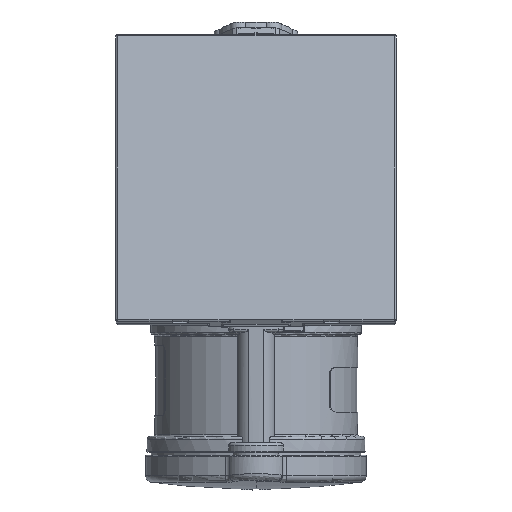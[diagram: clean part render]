
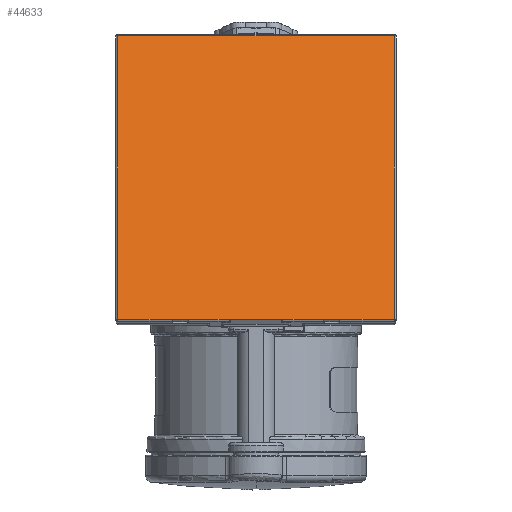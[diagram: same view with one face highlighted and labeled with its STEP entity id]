
A CAD part, front view. The second image highlights one B-rep face of the part: STEP entity #44633.
In plain terms, the highlighted planar face has unit normal (0, -0.966, 0.259).
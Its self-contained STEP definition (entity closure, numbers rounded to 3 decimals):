
#577=DIRECTION('',(1.,0.,0.));
#578=VECTOR('',#577,16.991);
#579=CARTESIAN_POINT('',(-42.991,-47.803,
-47.041));
#580=LINE('1915',#579,#578);
#1696=DIRECTION('',(1.,0.,0.));
#1697=VECTOR('',#1696,12.679);
#1698=CARTESIAN_POINT('',(8.321,-47.803,
-47.041));
#1699=LINE('1913',#1698,#1697);
#2103=DIRECTION('',(1.,0.,0.));
#2104=VECTOR('',#2103,12.679);
#2105=CARTESIAN_POINT('',(-21.,-47.803,-47.041));
#2106=LINE('1916',#2105,#2104);
#2165=DIRECTION('',(1.,0.,0.));
#2166=VECTOR('',#2165,5.);
#2167=CARTESIAN_POINT('',(-26.,-47.803,-47.041));
#2168=LINE('1925',#2167,#2166);
#2172=DIRECTION('',(1.,0.,0.));
#2173=VECTOR('',#2172,5.);
#2174=CARTESIAN_POINT('',(21.,-47.803,-47.041));
#2175=LINE('1927',#2174,#2173);
#2179=DIRECTION('',(1.,0.,0.));
#2180=VECTOR('',#2179,16.641);
#2181=CARTESIAN_POINT('',(-8.321,-47.803,
-47.041));
#2182=LINE('1926',#2181,#2180);
#2186=DIRECTION('',(0.,-0.259,-0.966));
#2187=VECTOR('',#2186,91.296);
#2188=CARTESIAN_POINT('',(-42.991,-24.174,
41.145));
#2189=LINE('1645',#2188,#2187);
#3896=DIRECTION('',(0.,0.259,0.966));
#3897=VECTOR('',#3896,91.296);
#3898=CARTESIAN_POINT('',(42.991,-47.803,
-47.041));
#3899=LINE('1639',#3898,#3897);
#3994=DIRECTION('',(1.,0.,0.));
#3995=VECTOR('',#3994,16.991);
#3996=CARTESIAN_POINT('',(26.,-47.803,-47.041));
#3997=LINE('1914',#3996,#3995);
#4119=DIRECTION('',(-1.,0.,0.));
#4120=VECTOR('',#4119,85.982);
#4121=CARTESIAN_POINT('',(42.991,-24.174,41.145));
#4122=LINE('1642',#4121,#4120);
#38569=CARTESIAN_POINT('',(42.991,-47.803,
-47.041));
#38570=CARTESIAN_POINT('',(42.991,-24.174,
41.145));
#38571=VERTEX_POINT('',#38569);
#38572=VERTEX_POINT('',#38570);
#38577=CARTESIAN_POINT('',(-42.991,-24.174,
41.145));
#38578=VERTEX_POINT('',#38577);
#38583=CARTESIAN_POINT('',(-42.991,-47.803,
-47.041));
#38584=VERTEX_POINT('',#38583);
#38811=CARTESIAN_POINT('',(-8.321,-47.803,
-47.041));
#38812=VERTEX_POINT('',#38811);
#38813=CARTESIAN_POINT('',(8.321,-47.803,
-47.041));
#38814=VERTEX_POINT('',#38813);
#38848=CARTESIAN_POINT('',(21.,-47.803,-47.041));
#38850=VERTEX_POINT('',#38848);
#38852=CARTESIAN_POINT('',(26.,-47.803,-47.041));
#38854=VERTEX_POINT('',#38852);
#38856=CARTESIAN_POINT('',(-26.,-47.803,-47.041));
#38858=VERTEX_POINT('',#38856);
#38860=CARTESIAN_POINT('',(-21.,-47.803,-47.041));
#38862=VERTEX_POINT('',#38860);
#44612=CARTESIAN_POINT('',(38.582,-48.14,-48.3));
#44613=DIRECTION('',(0.,0.966,-0.259));
#44614=DIRECTION('',(0.,0.259,0.966));
#44615=AXIS2_PLACEMENT_3D('',#44612,#44613,#44614);
#44616=PLANE('30',#44615);
#44617=ORIENTED_EDGE('1916',*,*,#44545,.F.);
#44618=ORIENTED_EDGE('1925',*,*,#42324,.F.);
#44619=ORIENTED_EDGE('1915',*,*,#42434,.F.);
#44621=ORIENTED_EDGE('1645',*,*,#44620,.F.);
#44623=ORIENTED_EDGE('1642',*,*,#44622,.F.);
#44625=ORIENTED_EDGE('1639',*,*,#44624,.F.);
#44627=ORIENTED_EDGE('1914',*,*,#44626,.F.);
#44628=ORIENTED_EDGE('1927',*,*,#43887,.F.);
#44629=ORIENTED_EDGE('1913',*,*,#43966,.F.);
#44630=ORIENTED_EDGE('1926',*,*,#44023,.F.);
#44631=EDGE_LOOP('30',(#44617,#44618,#44619,#44621,#44623,#44625,#44627,#44628,
#44629,#44630));
#44632=FACE_OUTER_BOUND('30',#44631,.F.);
#42324=EDGE_CURVE('1925',#38858,#38862,#2168,.T.);
#42434=EDGE_CURVE('1915',#38584,#38858,#580,.T.);
#43887=EDGE_CURVE('1927',#38850,#38854,#2175,.T.);
#43966=EDGE_CURVE('1913',#38814,#38850,#1699,.T.);
#44023=EDGE_CURVE('1926',#38812,#38814,#2182,.T.);
#44545=EDGE_CURVE('1916',#38862,#38812,#2106,.T.);
#44620=EDGE_CURVE('1645',#38578,#38584,#2189,.T.);
#44622=EDGE_CURVE('1642',#38572,#38578,#4122,.T.);
#44624=EDGE_CURVE('1639',#38571,#38572,#3899,.T.);
#44626=EDGE_CURVE('1914',#38854,#38571,#3997,.T.);
#44633=ADVANCED_FACE('30',(#44632),#44616,.F.);
